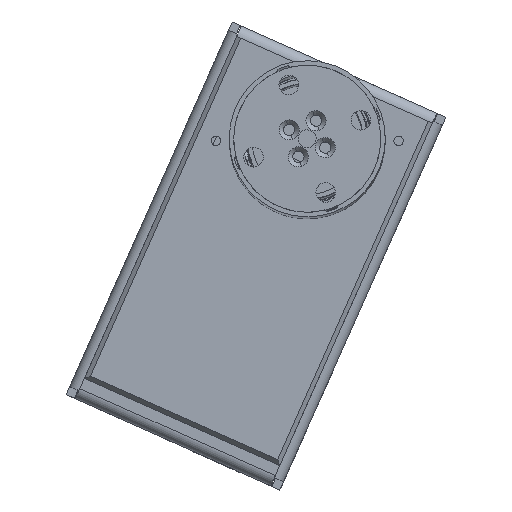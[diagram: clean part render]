
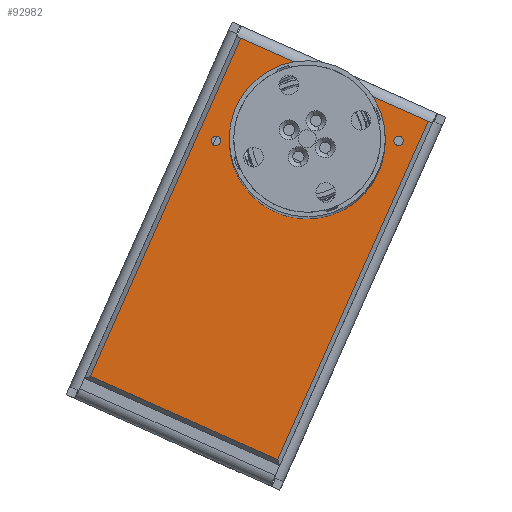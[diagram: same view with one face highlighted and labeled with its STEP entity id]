
A CAD part, top view. The second image highlights one B-rep face of the part: STEP entity #92982.
In plain terms, the highlighted planar face has unit normal (0, 0, 1).
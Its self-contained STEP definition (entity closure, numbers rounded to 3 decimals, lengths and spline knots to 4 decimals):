
#122 = DIRECTION ( 'NONE',  ( 0.914, -0.407, 0. ) ) ;
#1355 = VERTEX_POINT ( 'NONE', #4932 ) ;
#2240 = DIRECTION ( 'NONE',  ( -0.914, 0.407, 0. ) ) ;
#3495 = CARTESIAN_POINT ( 'NONE',  ( 2.1349, 0.3424, 0.5512 ) ) ;
#4932 = CARTESIAN_POINT ( 'NONE',  ( 0.9711, -0.4324, 0.5512 ) ) ;
#5618 = CARTESIAN_POINT ( 'NONE',  ( -0.5234, -5.628, 0.5512 ) ) ;
#6118 = DIRECTION ( 'NONE',  ( -0.914, 0.407, 0. ) ) ;
#6611 = CARTESIAN_POINT ( 'NONE',  ( -0.5234, -5.628, 0.5512 ) ) ;
#7305 = CARTESIAN_POINT ( 'NONE',  ( 0., 0., 0.5512 ) ) ;
#7946 = FACE_BOUND ( 'NONE', #76924, .T. ) ;
#8305 = VECTOR ( 'NONE', #6118, 39.3701 ) ;
#8755 = EDGE_CURVE ( 'NONE', #23643, #71468, #58936, .T. ) ;
#8919 = LINE ( 'NONE', #6611, #50929 ) ;
#10614 = DIRECTION ( 'NONE',  ( 0., 0., 1. ) ) ;
#10975 = VERTEX_POINT ( 'NONE', #60094 ) ;
#11125 = ORIENTED_EDGE ( 'NONE', *, *, #65623, .T. ) ;
#11204 = EDGE_CURVE ( 'NONE', #66615, #12541, #61009, .T. ) ;
#12256 = VECTOR ( 'NONE', #77947, 39.3701 ) ;
#12304 = CARTESIAN_POINT ( 'NONE',  ( -0.9711, 0.4324, 0.5512 ) ) ;
#12541 = VERTEX_POINT ( 'NONE', #21758 ) ;
#12972 = DIRECTION ( 'NONE',  ( 0., 0., 1. ) ) ;
#13513 = AXIS2_PLACEMENT_3D ( 'NONE', #87126, #12972, #86208 ) ;
#15727 = DIRECTION ( 'NONE',  ( -0.407, -0.914, 0. ) ) ;
#18843 = CARTESIAN_POINT ( 'NONE',  ( -3.8323, -4.1548, 0.5512 ) ) ;
#21758 = CARTESIAN_POINT ( 'NONE',  ( -1.6897, 0.0336, 0.5512 ) ) ;
#23643 = VERTEX_POINT ( 'NONE', #5618 ) ;
#26767 = CARTESIAN_POINT ( 'NONE',  ( -1.5386, -0.0336, 0.5512 ) ) ;
#26792 = DIRECTION ( 'NONE',  ( -0.914, 0.407, 0. ) ) ;
#28017 = LINE ( 'NONE', #48668, #43178 ) ;
#28175 = LINE ( 'NONE', #95650, #8305 ) ;
#28516 = CIRCLE ( 'NONE', #67949, 1.063 ) ;
#29135 = PLANE ( 'NONE',  #36464 ) ;
#30168 = FACE_BOUND ( 'NONE', #35182, .T. ) ;
#31029 = ORIENTED_EDGE ( 'NONE', *, *, #61338, .F. ) ;
#32828 = EDGE_LOOP ( 'NONE', ( #79841, #84635, #11125, #63109 ) ) ;
#35182 = EDGE_LOOP ( 'NONE', ( #31029, #80098 ) ) ;
#36464 = AXIS2_PLACEMENT_3D ( 'NONE', #74856, #44123, #89865 ) ;
#37026 = DIRECTION ( 'NONE',  ( 0., 0., 1. ) ) ;
#38080 = EDGE_CURVE ( 'NONE', #70355, #1355, #28516, .T. ) ;
#38596 = CIRCLE ( 'NONE', #75560, 0.0827 ) ;
#38715 = CIRCLE ( 'NONE', #72387, 1.063 ) ;
#39595 = EDGE_CURVE ( 'NONE', #71468, #10975, #28175, .T. ) ;
#39615 = CARTESIAN_POINT ( 'NONE',  ( 1.6142, 0., 0.5512 ) ) ;
#40245 = EDGE_CURVE ( 'NONE', #79305, #81802, #38596, .T. ) ;
#41484 = DIRECTION ( 'NONE',  ( 0., 0., 1. ) ) ;
#43178 = VECTOR ( 'NONE', #15727, 39.3701 ) ;
#44123 = DIRECTION ( 'NONE',  ( 0., 0., 1. ) ) ;
#47944 = EDGE_CURVE ( 'NONE', #12541, #66615, #91507, .T. ) ;
#48584 = AXIS2_PLACEMENT_3D ( 'NONE', #91717, #69146, #2240 ) ;
#48668 = CARTESIAN_POINT ( 'NONE',  ( -1.1741, 1.8156, 0.5512 ) ) ;
#50929 = VECTOR ( 'NONE', #122, 39.3701 ) ;
#53453 = FACE_BOUND ( 'NONE', #75226, .T. ) ;
#55296 = CARTESIAN_POINT ( 'NONE',  ( 0., 0., 0.5512 ) ) ;
#57949 = CARTESIAN_POINT ( 'NONE',  ( 1.6897, -0.0336, 0.5512 ) ) ;
#58936 = LINE ( 'NONE', #3495, #12256 ) ;
#59463 = ORIENTED_EDGE ( 'NONE', *, *, #47944, .F. ) ;
#60094 = CARTESIAN_POINT ( 'NONE',  ( -1.1741, 1.8156, 0.5512 ) ) ;
#60803 = DIRECTION ( 'NONE',  ( 0., 0., 1. ) ) ;
#61009 = CIRCLE ( 'NONE', #77842, 0.0827 ) ;
#61098 = VERTEX_POINT ( 'NONE', #18843 ) ;
#61338 = EDGE_CURVE ( 'NONE', #1355, #70355, #38715, .T. ) ;
#62784 = EDGE_CURVE ( 'NONE', #10975, #61098, #28017, .T. ) ;
#63109 = ORIENTED_EDGE ( 'NONE', *, *, #8755, .T. ) ;
#65623 = EDGE_CURVE ( 'NONE', #61098, #23643, #8919, .T. ) ;
#66615 = VERTEX_POINT ( 'NONE', #26767 ) ;
#67949 = AXIS2_PLACEMENT_3D ( 'NONE', #55296, #10614, #92909 ) ;
#69146 = DIRECTION ( 'NONE',  ( 0., 0., 1. ) ) ;
#69312 = DIRECTION ( 'NONE',  ( -0.914, 0.407, 0. ) ) ;
#70355 = VERTEX_POINT ( 'NONE', #12304 ) ;
#71468 = VERTEX_POINT ( 'NONE', #86875 ) ;
#72387 = AXIS2_PLACEMENT_3D ( 'NONE', #7305, #37026, #89288 ) ;
#74856 = CARTESIAN_POINT ( 'NONE',  ( 0., 0., 0.5512 ) ) ;
#74983 = EDGE_CURVE ( 'NONE', #81802, #79305, #88993, .T. ) ;
#75226 = EDGE_LOOP ( 'NONE', ( #93439, #59463 ) ) ;
#75560 = AXIS2_PLACEMENT_3D ( 'NONE', #39615, #60803, #69312 ) ;
#76924 = EDGE_LOOP ( 'NONE', ( #89229, #80666 ) ) ;
#77842 = AXIS2_PLACEMENT_3D ( 'NONE', #78716, #41484, #26792 ) ;
#77947 = DIRECTION ( 'NONE',  ( 0.407, 0.914, 0. ) ) ;
#78716 = CARTESIAN_POINT ( 'NONE',  ( -1.6142, 0., 0.5512 ) ) ;
#79305 = VERTEX_POINT ( 'NONE', #57949 ) ;
#79841 = ORIENTED_EDGE ( 'NONE', *, *, #39595, .T. ) ;
#80098 = ORIENTED_EDGE ( 'NONE', *, *, #38080, .F. ) ;
#80666 = ORIENTED_EDGE ( 'NONE', *, *, #74983, .F. ) ;
#81677 = CARTESIAN_POINT ( 'NONE',  ( 1.5386, 0.0336, 0.5512 ) ) ;
#81802 = VERTEX_POINT ( 'NONE', #81677 ) ;
#84635 = ORIENTED_EDGE ( 'NONE', *, *, #62784, .T. ) ;
#86208 = DIRECTION ( 'NONE',  ( -0.914, 0.407, 0. ) ) ;
#86875 = CARTESIAN_POINT ( 'NONE',  ( 2.1349, 0.3424, 0.5512 ) ) ;
#87126 = CARTESIAN_POINT ( 'NONE',  ( -1.6142, 0., 0.5512 ) ) ;
#88993 = CIRCLE ( 'NONE', #48584, 0.0827 ) ;
#89229 = ORIENTED_EDGE ( 'NONE', *, *, #40245, .F. ) ;
#89288 = DIRECTION ( 'NONE',  ( -0.914, 0.407, 0. ) ) ;
#89865 = DIRECTION ( 'NONE',  ( -0.914, 0.407, 0. ) ) ;
#90918 = FACE_OUTER_BOUND ( 'NONE', #32828, .T. ) ;
#91507 = CIRCLE ( 'NONE', #13513, 0.0827 ) ;
#91717 = CARTESIAN_POINT ( 'NONE',  ( 1.6142, 0., 0.5512 ) ) ;
#92909 = DIRECTION ( 'NONE',  ( -0.914, 0.407, 0. ) ) ;
#92982 = ADVANCED_FACE ( 'NONE', ( #53453, #90918, #7946, #30168 ), #29135, .T. ) ;
#93439 = ORIENTED_EDGE ( 'NONE', *, *, #11204, .F. ) ;
#95650 = CARTESIAN_POINT ( 'NONE',  ( 2.1349, 0.3424, 0.5512 ) ) ;
